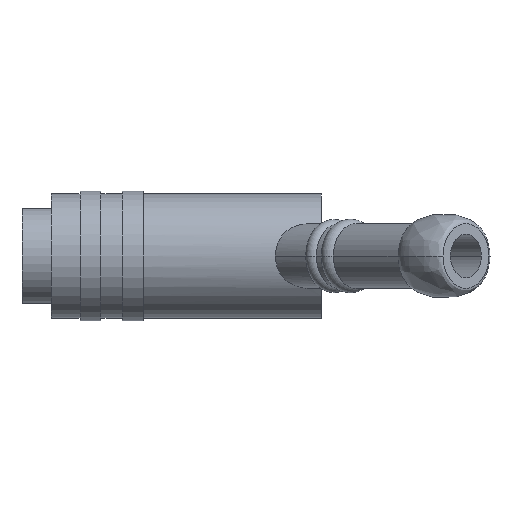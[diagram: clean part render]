
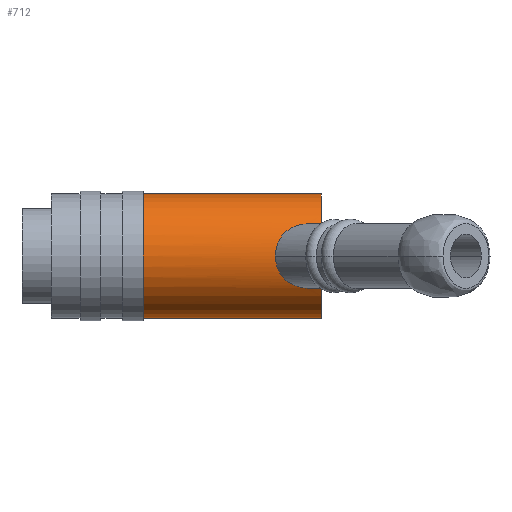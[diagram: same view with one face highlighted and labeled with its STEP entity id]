
A CAD part, front view. The second image highlights one B-rep face of the part: STEP entity #712.
In plain terms, the highlighted cylindrical face has radius 8.5 mm (diameter 17 mm), a partial arc.
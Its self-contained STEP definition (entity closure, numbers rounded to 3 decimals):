
#2 = CARTESIAN_POINT ( 'NONE',  ( 35.721, -7.991, -2.901 ) ) ;
#11 = DIRECTION ( 'NONE',  ( -1., 0., 0. ) ) ;
#32 = EDGE_CURVE ( 'NONE', #1199, #350, #982, .T. ) ;
#44 = CARTESIAN_POINT ( 'NONE',  ( 0., 0., 0. ) ) ;
#65 = AXIS2_PLACEMENT_3D ( 'NONE', #44, #305, #1403 ) ;
#101 = CARTESIAN_POINT ( 'NONE',  ( 36.097, -7.841, 3.284 ) ) ;
#129 = CARTESIAN_POINT ( 'NONE',  ( 40.256, -7.249, -4.438 ) ) ;
#131 = CARTESIAN_POINT ( 'NONE',  ( 35.398, -8.136, -2.465 ) ) ;
#136 = CARTESIAN_POINT ( 'NONE',  ( 34.713, -8.5, 0. ) ) ;
#211 = B_SPLINE_CURVE_WITH_KNOTS ( 'NONE', 3,
 ( #730, #1490, #129, #979, #253, #1110, #370, #1231, #502, #1360, #617, #1493, #736, #2, #857, #131, #986, #259, #1112, #376, #1235, #505, #1364, #620 ),
 .UNSPECIFIED., .F., .F.,
 ( 4, 2, 2, 2, 2, 2, 2, 2, 2, 2, 2, 4 ),
 ( 0.026, 0.027, 0.028, 0.029, 0.029, 0.03, 0.031, 0.032, 0.032, 0.033, 0.033, 0.035 ),
 .UNSPECIFIED. ) ;
#216 = ORIENTED_EDGE ( 'NONE', *, *, #32, .T. ) ;
#231 = CARTESIAN_POINT ( 'NONE',  ( 36.528, -7.694, 3.615 ) ) ;
#239 = CARTESIAN_POINT ( 'NONE',  ( 16.593, 0., -8.5 ) ) ;
#253 = CARTESIAN_POINT ( 'NONE',  ( 39.139, -7.252, -4.433 ) ) ;
#259 = CARTESIAN_POINT ( 'NONE',  ( 35.137, -8.266, -1.988 ) ) ;
#305 = DIRECTION ( 'NONE',  ( -1., 0., 0. ) ) ;
#342 = DIRECTION ( 'NONE',  ( -1., 0., 0. ) ) ;
#346 = CARTESIAN_POINT ( 'NONE',  ( 37.33, -7.477, 4.044 ) ) ;
#350 = VERTEX_POINT ( 'NONE', #495 ) ;
#358 = EDGE_CURVE ( 'NONE', #350, #387, #211, .T. ) ;
#370 = CARTESIAN_POINT ( 'NONE',  ( 38.031, -7.353, -4.266 ) ) ;
#376 = CARTESIAN_POINT ( 'NONE',  ( 34.935, -8.374, -1.471 ) ) ;
#387 = VERTEX_POINT ( 'NONE', #136 ) ;
#403 = ORIENTED_EDGE ( 'NONE', *, *, #1153, .T. ) ;
#433 = EDGE_LOOP ( 'NONE', ( #1484, #216, #847, #1133, #403, #822, #1143 ) ) ;
#453 = CARTESIAN_POINT ( 'NONE',  ( 34.713, -8.5, 0.378 ) ) ;
#471 = CARTESIAN_POINT ( 'NONE',  ( 34.882, -8.404, 1.29 ) ) ;
#475 = CARTESIAN_POINT ( 'NONE',  ( 38.402, -7.307, 4.342 ) ) ;
#486 = CARTESIAN_POINT ( 'NONE',  ( 0., 0., 8.5 ) ) ;
#495 = CARTESIAN_POINT ( 'NONE',  ( 41., -7.295, -4.363 ) ) ;
#502 = CARTESIAN_POINT ( 'NONE',  ( 37.334, -7.482, -4.035 ) ) ;
#503 = DIRECTION ( 'NONE',  ( -1., 0., 0. ) ) ;
#505 = CARTESIAN_POINT ( 'NONE',  ( 34.757, -8.474, -0.754 ) ) ;
#545 = EDGE_CURVE ( 'NONE', #1199, #958, #728, .T. ) ;
#575 = FACE_OUTER_BOUND ( 'NONE', #433, .T. ) ;
#590 = CARTESIAN_POINT ( 'NONE',  ( 35.061, -8.306, 1.816 ) ) ;
#595 = CARTESIAN_POINT ( 'NONE',  ( 39.514, -7.242, 4.45 ) ) ;
#617 = CARTESIAN_POINT ( 'NONE',  ( 36.835, -7.604, -3.801 ) ) ;
#620 = CARTESIAN_POINT ( 'NONE',  ( 34.713, -8.5, 0. ) ) ;
#642 = AXIS2_PLACEMENT_3D ( 'NONE', #1232, #503, #1361 ) ;
#681 = VECTOR ( 'NONE', #937, 1000. ) ;
#684 = CARTESIAN_POINT ( 'NONE',  ( 0., 0., -8.5 ) ) ;
#706 = CARTESIAN_POINT ( 'NONE',  ( 35.385, -8.141, 2.466 ) ) ;
#707 = CARTESIAN_POINT ( 'NONE',  ( 41., 0., 0. ) ) ;
#712 = ADVANCED_FACE ( 'NONE', ( #575 ), #818, .T. ) ;
#715 = CARTESIAN_POINT ( 'NONE',  ( 40.633, -7.267, 4.41 ) ) ;
#728 = LINE ( 'NONE', #684, #681 ) ;
#730 = CARTESIAN_POINT ( 'NONE',  ( 41., -7.295, -4.363 ) ) ;
#736 = CARTESIAN_POINT ( 'NONE',  ( 36.093, -7.839, -3.298 ) ) ;
#742 = CARTESIAN_POINT ( 'NONE',  ( 16.593, 0., 0. ) ) ;
#775 = CIRCLE ( 'NONE', #1139, 8.5 ) ;
#814 = CARTESIAN_POINT ( 'NONE',  ( 16.593, 0., 8.5 ) ) ;
#818 = CYLINDRICAL_SURFACE ( 'NONE', #65, 8.5 ) ;
#822 = ORIENTED_EDGE ( 'NONE', *, *, #1463, .T. ) ;
#829 = CARTESIAN_POINT ( 'NONE',  ( 35.965, -7.891, 3.162 ) ) ;
#847 = ORIENTED_EDGE ( 'NONE', *, *, #358, .T. ) ;
#857 = CARTESIAN_POINT ( 'NONE',  ( 35.606, -8.041, -2.76 ) ) ;
#868 = DIRECTION ( 'NONE',  ( 0., 0., 1. ) ) ;
#877 = CARTESIAN_POINT ( 'NONE',  ( 41., -7.295, 4.363 ) ) ;
#937 = DIRECTION ( 'NONE',  ( -1., 0., 0. ) ) ;
#952 = EDGE_CURVE ( 'NONE', #387, #1275, #1316, .T. ) ;
#958 = VERTEX_POINT ( 'NONE', #239 ) ;
#959 = CARTESIAN_POINT ( 'NONE',  ( 36.377, -7.742, 3.51 ) ) ;
#979 = CARTESIAN_POINT ( 'NONE',  ( 39.511, -7.242, -4.45 ) ) ;
#982 = CIRCLE ( 'NONE', #1544, 8.5 ) ;
#983 = VECTOR ( 'NONE', #1347, 1000. ) ;
#986 = CARTESIAN_POINT ( 'NONE',  ( 35.305, -8.182, -2.31 ) ) ;
#1037 = VERTEX_POINT ( 'NONE', #814 ) ;
#1056 = VERTEX_POINT ( 'NONE', #1315 ) ;
#1080 = DIRECTION ( 'NONE',  ( 0., 0., 1. ) ) ;
#1087 = CARTESIAN_POINT ( 'NONE',  ( 36.995, -7.557, 3.898 ) ) ;
#1110 = CARTESIAN_POINT ( 'NONE',  ( 38.395, -7.308, -4.341 ) ) ;
#1112 = CARTESIAN_POINT ( 'NONE',  ( 35.062, -8.305, -1.818 ) ) ;
#1133 = ORIENTED_EDGE ( 'NONE', *, *, #952, .T. ) ;
#1139 = AXIS2_PLACEMENT_3D ( 'NONE', #742, #11, #868 ) ;
#1143 = ORIENTED_EDGE ( 'NONE', *, *, #1216, .F. ) ;
#1153 = EDGE_CURVE ( 'NONE', #1275, #1056, #1187, .T. ) ;
#1187 = CIRCLE ( 'NONE', #642, 8.5 ) ;
#1199 = VERTEX_POINT ( 'NONE', #1500 ) ;
#1203 = CARTESIAN_POINT ( 'NONE',  ( 34.755, -8.475, 0.748 ) ) ;
#1210 = CARTESIAN_POINT ( 'NONE',  ( 38.038, -7.352, 4.268 ) ) ;
#1216 = EDGE_CURVE ( 'NONE', #958, #1037, #775, .T. ) ;
#1231 = CARTESIAN_POINT ( 'NONE',  ( 37.506, -7.446, -4.1 ) ) ;
#1232 = CARTESIAN_POINT ( 'NONE',  ( 41., 0., 0. ) ) ;
#1235 = CARTESIAN_POINT ( 'NONE',  ( 34.883, -8.403, -1.294 ) ) ;
#1275 = VERTEX_POINT ( 'NONE', #877 ) ;
#1308 = LINE ( 'NONE', #486, #983 ) ;
#1315 = CARTESIAN_POINT ( 'NONE',  ( 41., 0., 8.5 ) ) ;
#1316 = B_SPLINE_CURVE_WITH_KNOTS ( 'NONE', 3,
 ( #1585, #453, #1203, #471, #1325, #590, #1462, #706, #1590, #829, #101, #959, #231, #1087, #346, #1210, #475, #1335, #595, #1469, #715, #1598 ),
 .UNSPECIFIED., .F., .F.,
 ( 4, 2, 2, 2, 2, 2, 2, 2, 2, 2, 4 ),
 ( 0., 0.001, 0.002, 0.002, 0.003, 0.004, 0.004, 0.006, 0.007, 0.008, 0.009 ),
 .UNSPECIFIED. ) ;
#1325 = CARTESIAN_POINT ( 'NONE',  ( 34.935, -8.374, 1.47 ) ) ;
#1335 = CARTESIAN_POINT ( 'NONE',  ( 39.138, -7.253, 4.433 ) ) ;
#1347 = DIRECTION ( 'NONE',  ( -1., 0., 0. ) ) ;
#1360 = CARTESIAN_POINT ( 'NONE',  ( 36.998, -7.56, -3.886 ) ) ;
#1361 = DIRECTION ( 'NONE',  ( 0., 0., 1. ) ) ;
#1364 = CARTESIAN_POINT ( 'NONE',  ( 34.713, -8.5, -0.378 ) ) ;
#1403 = DIRECTION ( 'NONE',  ( 0., 0., 1. ) ) ;
#1462 = CARTESIAN_POINT ( 'NONE',  ( 35.135, -8.267, 1.983 ) ) ;
#1463 = EDGE_CURVE ( 'NONE', #1056, #1037, #1308, .T. ) ;
#1469 = CARTESIAN_POINT ( 'NONE',  ( 40.263, -7.249, 4.438 ) ) ;
#1484 = ORIENTED_EDGE ( 'NONE', *, *, #545, .F. ) ;
#1490 = CARTESIAN_POINT ( 'NONE',  ( 40.63, -7.267, -4.41 ) ) ;
#1493 = CARTESIAN_POINT ( 'NONE',  ( 36.372, -7.739, -3.521 ) ) ;
#1500 = CARTESIAN_POINT ( 'NONE',  ( 41., 0., -8.5 ) ) ;
#1544 = AXIS2_PLACEMENT_3D ( 'NONE', #707, #342, #1080 ) ;
#1585 = CARTESIAN_POINT ( 'NONE',  ( 34.713, -8.5, 0. ) ) ;
#1590 = CARTESIAN_POINT ( 'NONE',  ( 35.597, -8.041, 2.768 ) ) ;
#1598 = CARTESIAN_POINT ( 'NONE',  ( 41., -7.295, 4.363 ) ) ;
